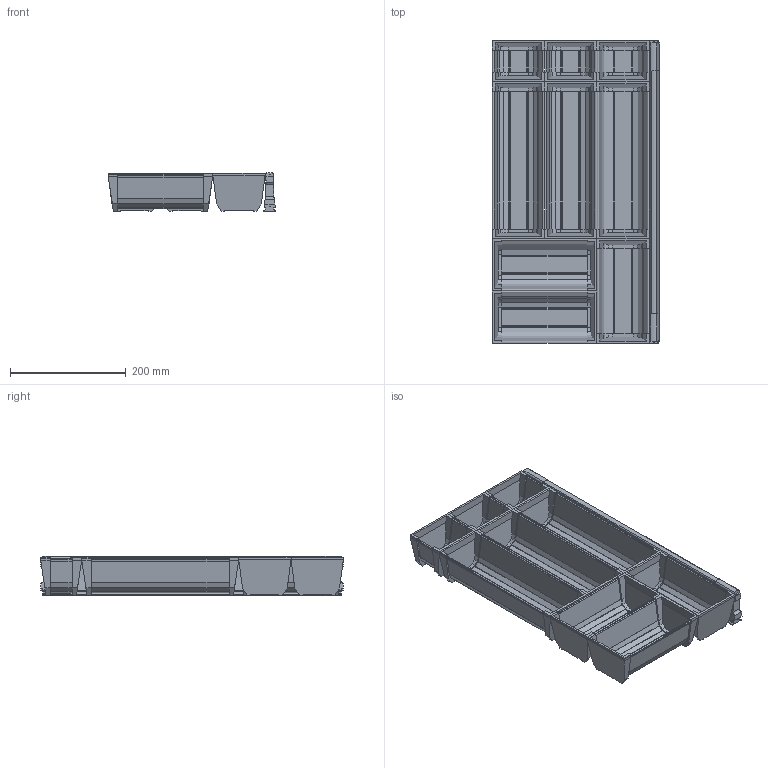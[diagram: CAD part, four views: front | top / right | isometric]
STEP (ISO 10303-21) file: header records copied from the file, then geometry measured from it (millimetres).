
FILE_DESCRIPTION (( 'STEP AP214' ), '1' );
FILE_NAME ('Magic-Sorto_B3_NL-550.STEP', '2010-08-17T11:55:04', ( 'grass' ), ( '' ), 'SwSTEP 2.0', 'SolidWorks 2010', '' );
FILE_SCHEMA (( 'AUTOMOTIVE_DESIGN' ));
Length unit declared in the file: millimetre
Products named in the file (1): Magic-Sorto_B3_NL-550
Bounding box: 290.01 x 523.5 x 67.5 mm (x, y, z)
Volume: 986082.5 mm3; surface area: 832513.6 mm2
Topology: 10 solids, 10 shells, 1133 faces, 3285 edges, 2190 vertices
Faces by surface type: plane 777, cylinder 356
Entity records: 49897 total; most frequent: CARTESIAN_POINT 6963, ORIENTED_EDGE 6570, DIRECTION 6153, EDGE_CURVE 3285, LINE 2521, VECTOR 2521, VERTEX_POINT 2190, AXIS2_PLACEMENT_3D 1816
